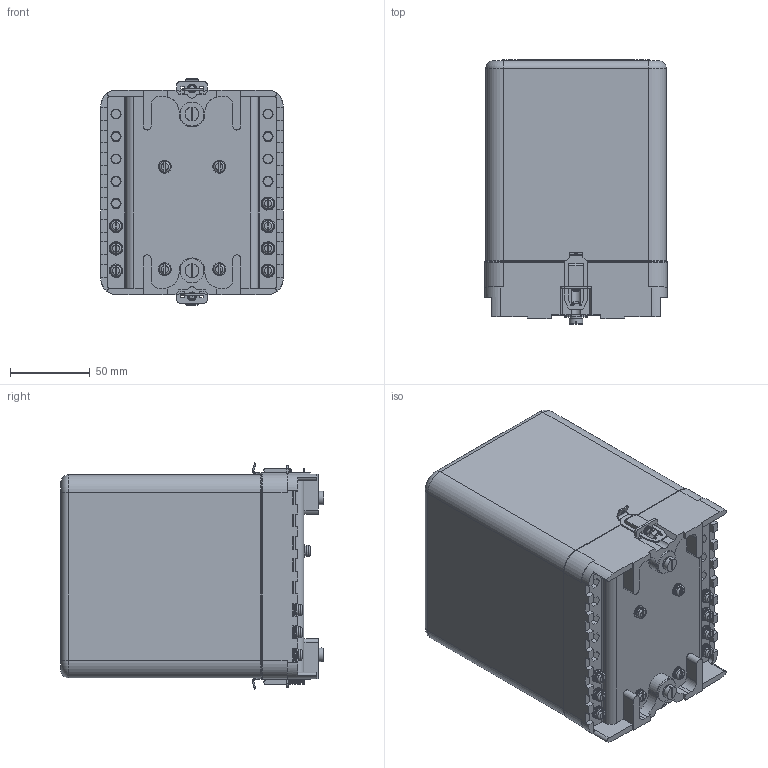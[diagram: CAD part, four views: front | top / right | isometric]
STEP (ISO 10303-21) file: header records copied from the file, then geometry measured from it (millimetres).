
FILE_DESCRIPTION(('STEP AP203'), '1');
FILE_NAME('ÐÍÍ 57 ç.ï.âèíò.', '', ('UNSPECIFIED'), ('UNSPECIFIED'), 'ASCON STEP Converter 1.3', 'ASCON Math Kernel', '');
FILE_SCHEMA(('CONFIG_CONTROL_DESIGN'));
Length unit declared in the file: millimetre
Bounding box: 114 x 165 x 141.51 mm (x, y, z)
Volume: 309907.1 mm3; surface area: 204064.1 mm2
Topology: 5 solids, 5 shells, 1193 faces, 3271 edges, 2106 vertices
Faces by surface type: plane 708, cylinder 338, torus 108, cone 23, bspline 14, sphere 2
Full cylindrical faces by diameter (mm): 2 x2, 3.242 x6, 3.5 x2, 4 x17, 4.134 x2, 4.2 x7, 4.3 x7, 4.5 x4, 5 x2, 5.3 x2, 5.5 x22, 8 x11, 8.5 x2, 11 x2, 15 x2
Entity records: 58761 total; most frequent: CARTESIAN_POINT 19146, ORIENTED_EDGE 6232, DIRECTION 6142, EDGE_CURVE 3116, AXIS2_PLACEMENT_3D 2141, VERTEX_POINT 2100, LINE 1860, VECTOR 1860
